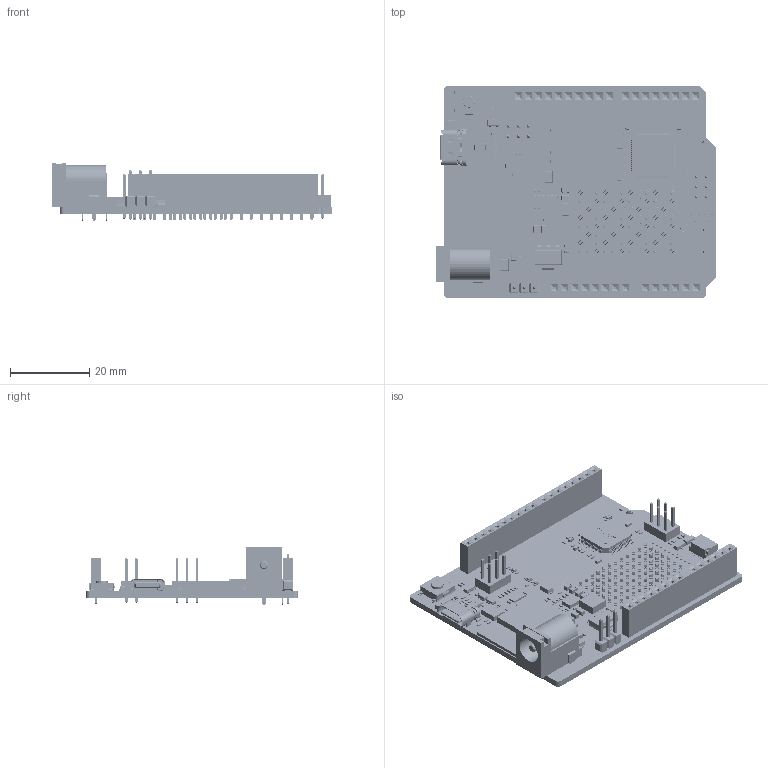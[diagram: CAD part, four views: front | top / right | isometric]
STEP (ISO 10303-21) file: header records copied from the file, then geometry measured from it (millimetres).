
FILE_DESCRIPTION(('Open CASCADE Model'),'2;1');
FILE_NAME('Open CASCADE Shape Model','2023-06-19T15:02:25',('Author'),( 'Open CASCADE'),'Open CASCADE STEP processor 7.5','Open CASCADE 7.5' ,'Unknown');
FILE_SCHEMA(('AUTOMOTIVE_DESIGN { 1 0 10303 214 1 1 1 1 }'));
Length unit declared in the file: millimetre
Products named in the file (285): PCB; Board; Open CASCADE STEP translator 7.5 1.1.1; R60; RES-0402; R59; R20; U5; 2029908470368; Body; Open CASCADE STEP translator 6.8 29.1.1; Lead; Tab; C28; CAP-0805; R58; R57; R56; R55; R54; R53; R21; R16; R14; R2; 96; HSMx-190; 95; 94; 93; 92; 91; 90; 89; 88; 87; 86; 85; 84; 83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
Assembly tree (574 placements, depth 7):
  PCB
    Board
      Open CASCADE STEP translator 7.5 1.1.1
    R60
      RES-0402
    R59
      RES-0402
    R20
      RES-0402
    U5
      2029908470368
        Body
          Open CASCADE STEP translator 6.8 29.1.1
        Lead  x3
        Tab
    C28
      CAP-0805
    R58
      RES-0402
    R57
      RES-0402
    R56
      RES-0402
    R55
      RES-0402
    R54
      RES-0402
    R53
      RES-0402
    R21
      RES-0402
    R16
      RES-0402
    R14
      RES-0402
    R2
      RES-0402
    96
      HSMx-190
    95
      HSMx-190
    94
      HSMx-190
    93
      HSMx-190
    92
      HSMx-190
    91
      HSMx-190
    90
      HSMx-190
    89
      HSMx-190
    88
      HSMx-190
    87
      HSMx-190
    86
      HSMx-190
    85
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Bounding box: 70.54 x 53.34 x 14.5 mm (x, y, z)
Volume: 10267.1 mm3; surface area: 15980.3 mm2
Topology: 345 solids, 348 shells, 16650 faces, 42494 edges, 26047 vertices
Faces by surface type: plane 11865, cylinder 3157, sphere 700, bspline 472, torus 400, cone 48, revolution 8
Full cylindrical faces by diameter (mm): 0.07 x100, 0.326 x1, 0.375 x1, 1.5 x2
Entity records: 130019 total; most frequent: CARTESIAN_POINT 25982, ORIENTED_EDGE 17530, DIRECTION 17027, EDGE_CURVE 8766, LINE 6639, VECTOR 6639, VERTEX_POINT 5503, AXIS2_PLACEMENT_3D 5190
